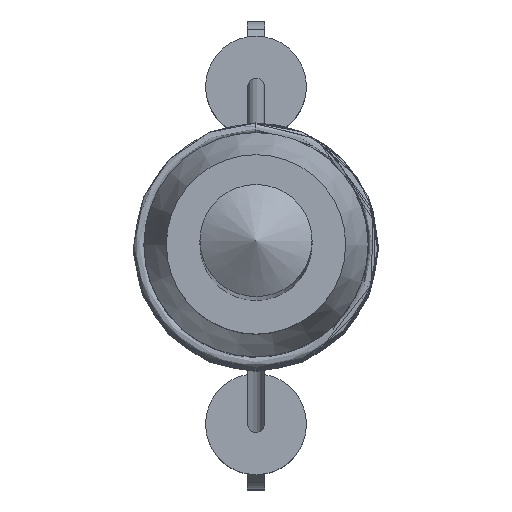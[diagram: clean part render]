
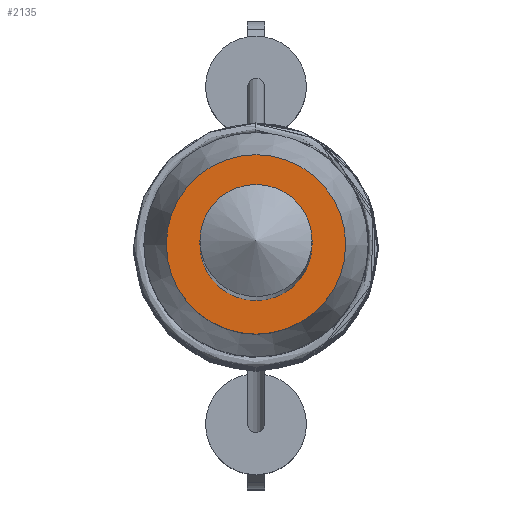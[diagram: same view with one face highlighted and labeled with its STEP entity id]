
A CAD part, top view. The second image highlights one B-rep face of the part: STEP entity #2135.
In plain terms, the highlighted planar face has unit normal (0, 0, 1).
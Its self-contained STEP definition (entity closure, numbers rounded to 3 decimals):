
#533 = CARTESIAN_POINT ( 'NONE',  ( 4., 0., 0. ) ) ;
#1624 = AXIS2_PLACEMENT_3D ( 'NONE', #5802, #9624, #3377 ) ;
#1775 = FACE_BOUND ( 'NONE', #6885, .T. ) ;
#2135 = ADVANCED_FACE ( 'NONE', ( #1775, #7057 ), #2649, .F. ) ;
#2173 = EDGE_CURVE ( 'NONE', #6921, #6921, #7380, .T. ) ;
#2649 = PLANE ( 'NONE',  #1624 ) ;
#2798 = VERTEX_POINT ( 'NONE', #6403 ) ;
#2916 = EDGE_LOOP ( 'NONE', ( #5439 ) ) ;
#3102 = AXIS2_PLACEMENT_3D ( 'NONE', #6241, #9384, #9673 ) ;
#3363 = DIRECTION ( 'NONE',  ( 0., 0., 1. ) ) ;
#3377 = DIRECTION ( 'NONE',  ( -1., 0., 0. ) ) ;
#3749 = CIRCLE ( 'NONE', #5578, 2.5 ) ;
#4476 = EDGE_CURVE ( 'NONE', #2798, #2798, #3749, .T. ) ;
#4859 = CARTESIAN_POINT ( 'NONE',  ( 0., 0., 0. ) ) ;
#5439 = ORIENTED_EDGE ( 'NONE', *, *, #2173, .T. ) ;
#5578 = AXIS2_PLACEMENT_3D ( 'NONE', #4859, #3363, #5737 ) ;
#5737 = DIRECTION ( 'NONE',  ( 1., 0., 0. ) ) ;
#5802 = CARTESIAN_POINT ( 'NONE',  ( 0., 4., 0. ) ) ;
#6241 = CARTESIAN_POINT ( 'NONE',  ( 0., 0., 0. ) ) ;
#6403 = CARTESIAN_POINT ( 'NONE',  ( 2.5, 0., 0. ) ) ;
#6885 = EDGE_LOOP ( 'NONE', ( #9835 ) ) ;
#6921 = VERTEX_POINT ( 'NONE', #533 ) ;
#7057 = FACE_OUTER_BOUND ( 'NONE', #2916, .T. ) ;
#7380 = CIRCLE ( 'NONE', #3102, 4. ) ;
#9384 = DIRECTION ( 'NONE',  ( 0., 0., 1. ) ) ;
#9624 = DIRECTION ( 'NONE',  ( 0., 0., -1. ) ) ;
#9673 = DIRECTION ( 'NONE',  ( 1., 0., 0. ) ) ;
#9835 = ORIENTED_EDGE ( 'NONE', *, *, #4476, .F. ) ;
